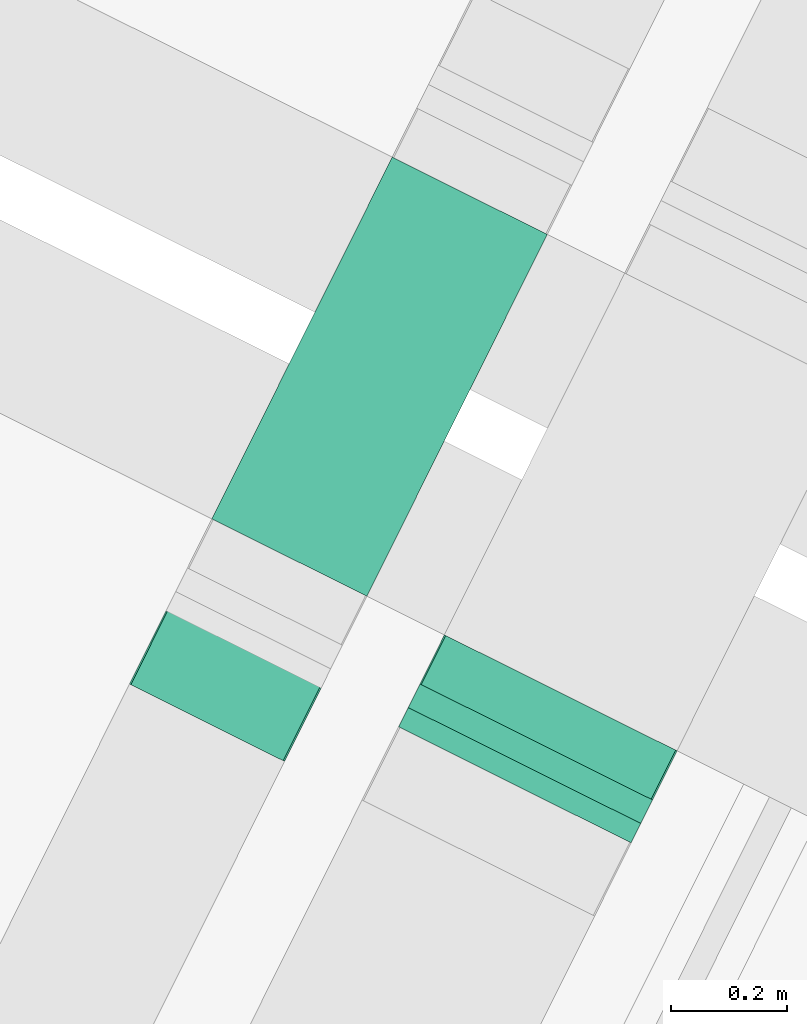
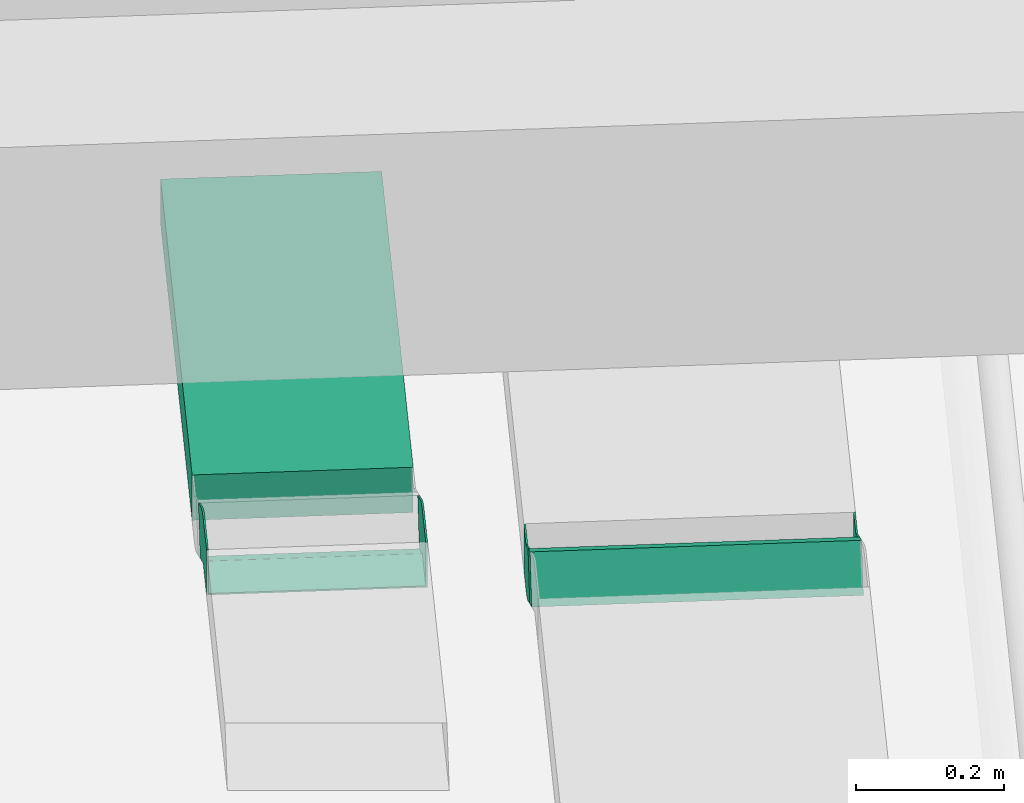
# One storey, part 30 of 47: 2 flow fittings, 2 flow segments.
"""IFC2X3 building model written with IfcOpenShell, lengths in metres."""

from ifc_helpers import new_model, entity, si_unit, converted_unit, derived_unit, direction, frame, frame_2d, origin, place, context, subcontext, project, spatial, rectangle, extrude, faceted_brep, source, transform, mapped, type_object, type_shapes, element, save


model = new_model("IFC2X3")

# Units and contexts
model_context = context("Model", 3, precision=1e-05, world=origin(), true_north=direction((0.894925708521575, 0.446215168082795)))
context_of_model = context(None, 3, precision=1e-05, world=origin(), true_north=direction((0.894925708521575, 0.446215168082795)))
body_context = subcontext(model_context, "Body", "Model", "MODEL_VIEW")
ifc_project = project(units=[si_unit("LENGTHUNIT", "METRE"), si_unit("AREAUNIT", "SQUARE_METRE"), si_unit("VOLUMEUNIT", "CUBIC_METRE"), converted_unit("PLANEANGLEUNIT", "DEGREE", entity("IfcRatioMeasure", 0.0174532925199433), si_unit("PLANEANGLEUNIT", "RADIAN"), dimensions=[0, 0, 0, 0, 0, 0, 0]), si_unit("MASSUNIT", "GRAM", prefix="KILO"), si_unit("TIMEUNIT", "SECOND"), si_unit("FREQUENCYUNIT", "HERTZ"), si_unit("THERMODYNAMICTEMPERATUREUNIT", "DEGREE_CELSIUS"), derived_unit("THERMALTRANSMITTANCEUNIT", [(si_unit("MASSUNIT", "GRAM", prefix="KILO"), 1), (si_unit("THERMODYNAMICTEMPERATUREUNIT", "KELVIN"), -1), (si_unit("TIMEUNIT", "SECOND"), -3)]), derived_unit("VOLUMETRICFLOWRATEUNIT", [(si_unit("LENGTHUNIT", "METRE"), 3), (si_unit("TIMEUNIT", "SECOND"), -1)]), si_unit("ELECTRICCURRENTUNIT", "AMPERE"), si_unit("ELECTRICVOLTAGEUNIT", "VOLT"), si_unit("POWERUNIT", "WATT"), si_unit("FORCEUNIT", "NEWTON", prefix="KILO"), si_unit("ILLUMINANCEUNIT", "LUX"), si_unit("LUMINOUSFLUXUNIT", "LUMEN"), si_unit("LUMINOUSINTENSITYUNIT", "CANDELA"), si_unit("PRESSUREUNIT", "PASCAL")], contexts=[model_context, context_of_model])

# Site, building, storey
site_placement = place(None, frame((218.228324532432, 584.720189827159, 0.0), z_axis=(0.0, 0.0, 1.0), x_axis=(0.446215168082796, 0.894925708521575, 0.0)))
site = spatial("IfcSite", under=ifc_project, at=site_placement, Name="Default", CompositionType="ELEMENT")
building_placement = place(site_placement, origin())
building = spatial("IfcBuilding", under=site, at=building_placement, CompositionType="ELEMENT")
storey_placement = place(building_placement, frame((0.0, 0.0, 4.69)))
storey = spatial("IfcBuildingStorey", under=building, at=storey_placement, Name="1 - Piano Primo", CompositionType="ELEMENT", Elevation=4.69)

# Flow segments
cable_carrier_segment_type = type_object("IfcCableCarrierSegmentType", Name="Passerella con raccordi:Passerella canale", PredefinedType="NOTDEFINED")
flow_segment_1_placement = place(storey_placement, frame((10.7941974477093, -3.35107899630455, 2.89275102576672)))
element("IfcFlowSegment", 1, at=flow_segment_1_placement, inside=storey, type_object=cable_carrier_segment_type, Name="Passerella con raccordi:Passerella canale", ObjectType="Passerella con raccordi:Passerella canale", context=body_context, shape_type="SweptSolid", body=[
    extrude(rectangle(XDim=0.699999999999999, YDim=0.3, at=frame_2d((1.08246744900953e-15, 0.0), x_axis=(1.0, 0.0))), frame((0.350000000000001, 0.150000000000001, 0.0)), (0.0, 0.0, 1.0), 0.0750000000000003),
])
flow_segment_2_placement = place(storey_placement, frame((10.616168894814, -3.95107899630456, 2.82822448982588)))
element("IfcFlowSegment", 2, at=flow_segment_2_placement, inside=storey, type_object=cable_carrier_segment_type, Name="Passerella con raccordi:Passerella canale", ObjectType="Passerella con raccordi:Passerella canale", context=body_context, shape_type="SweptSolid", body=[
    extrude(rectangle(XDim=0.0749999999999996, YDim=0.0527002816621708, at=frame_2d((2.70616862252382e-16, 4.68375338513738e-16), x_axis=(0.0, 1.0))), frame((0.0415698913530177, 0.0, 0.0456510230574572), z_axis=(0.0, 1.0, 0.0), x_axis=(-0.866025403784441, 0.0, 0.499999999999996)), (0.0, 0.0, 1.0), 0.450000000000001),
])

# Flow fittings
cable_carrier_fitting_type_1 = type_object("IfcCableCarrierFittingType", Name="Standard", PredefinedType="NOTDEFINED")
shared_shape_1 = source(origin(), body_context, "Body", "Brep", [
    faceted_brep([(-0.0858988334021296, -0.0374999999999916, -0.150000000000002), (-0.0858988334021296, -0.0374999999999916, 0.149999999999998), (-0.0858988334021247, 0.0375000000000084, 0.149999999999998), (-0.0858988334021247, 0.0375000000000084, 0.147460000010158), (-0.0858988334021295, -0.0349600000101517, 0.147460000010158), (-0.0858988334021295, -0.0349600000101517, -0.147460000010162), (-0.0858988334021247, 0.0375000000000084, -0.147460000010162), (-0.0858988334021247, 0.0375000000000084, -0.150000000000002), (0.0931405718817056, -0.0104734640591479, -0.150000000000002), (0.0931405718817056, -0.0104734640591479, -0.147460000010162), (0.0569105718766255, -0.0732256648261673, -0.147460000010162), (0.0569105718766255, -0.0732256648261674, 0.147460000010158), (0.0931405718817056, -0.0104734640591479, 0.147460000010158), (0.0931405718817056, -0.0104734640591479, 0.149999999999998), (0.0556405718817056, -0.0754253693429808, 0.149999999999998), (0.0556405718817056, -0.0754253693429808, -0.150000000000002), (-0.0108988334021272, -0.0374999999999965, 0.149999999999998), (-0.0100770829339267, -0.0376081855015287, 0.149999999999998), (-0.00931133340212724, -0.037925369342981, 0.149999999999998), (0.0281886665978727, 0.027026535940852, 0.149999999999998), (0.0187615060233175, 0.0309313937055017, 0.149999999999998), (0.0093343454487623, 0.0348362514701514, 0.149999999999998), (-0.000782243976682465, 0.0361681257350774, 0.149999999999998), (-0.0108988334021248, 0.0375000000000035, 0.149999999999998), (-0.0108988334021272, -0.0374999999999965, -0.150000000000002), (-0.0108988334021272, -0.0374999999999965, -0.142222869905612), (-0.0108988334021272, -0.0374999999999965, -0.134445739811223), (-0.0108988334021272, -0.0374999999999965, -0.126668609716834), (-0.0108988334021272, -0.0374999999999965, -0.118891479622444), (-0.0108988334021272, -0.0374999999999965, -0.111114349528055), (-0.0108988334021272, -0.0374999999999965, -0.103337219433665), (-0.0108988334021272, -0.0374999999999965, -0.0955600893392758), (-0.0108988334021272, -0.0374999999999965, -0.0877829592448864), (-0.0108988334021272, -0.0374999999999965, -0.0822965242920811), (-0.0108988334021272, -0.0374999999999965, -0.0768100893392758), (-0.0108988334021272, -0.0374999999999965, -0.0713236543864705), (-0.0108988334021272, -0.0374999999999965, -0.0658372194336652), (-0.0108988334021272, -0.0374999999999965, -0.06035078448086), (-0.0108988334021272, -0.0374999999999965, -0.0548643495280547), (-0.0108988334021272, -0.0374999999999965, -0.0493779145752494), (-0.0108988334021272, -0.0374999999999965, -0.0438914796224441), (-0.0108988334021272, -0.0374999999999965, -0.0384050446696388), (-0.0108988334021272, -0.0374999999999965, -0.0329186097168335), (-0.0108988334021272, -0.0374999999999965, -0.0274321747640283), (-0.0108988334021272, -0.0374999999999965, -0.021945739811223), (-0.0108988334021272, -0.0374999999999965, -0.0164593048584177), (-0.0108988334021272, -0.0374999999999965, -0.0109728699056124), (-0.0108988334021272, -0.0374999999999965, -0.00548643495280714), (-0.0108988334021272, -0.0374999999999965, 0.0), (-0.0108988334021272, -0.0374999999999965, 0.00468749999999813), (-0.0108988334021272, -0.0374999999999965, 0.00937499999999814), (-0.0108988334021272, -0.0374999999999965, 0.0187499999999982), (-0.0108988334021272, -0.0374999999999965, 0.0281249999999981), (-0.0108988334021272, -0.0374999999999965, 0.0328124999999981), (-0.0108988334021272, -0.0374999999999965, 0.0374999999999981), (-0.0108988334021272, -0.0374999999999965, 0.0468749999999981), (-0.0108988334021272, -0.0374999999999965, 0.0562499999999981), (-0.0108988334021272, -0.0374999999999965, 0.0656249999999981), (-0.0108988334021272, -0.0374999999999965, 0.0749999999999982), (-0.0108988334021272, -0.0374999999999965, 0.0843749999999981), (-0.0108988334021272, -0.0374999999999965, 0.0890624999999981), (-0.0108988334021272, -0.0374999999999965, 0.0937499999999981), (-0.0108988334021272, -0.0374999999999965, 0.103124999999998), (-0.0108988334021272, -0.0374999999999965, 0.112499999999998), (-0.0108988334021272, -0.0374999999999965, 0.121874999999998), (-0.0108988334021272, -0.0374999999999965, 0.131249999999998), (-0.0108988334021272, -0.0374999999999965, 0.136736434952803), (-0.0108988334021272, -0.0374999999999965, 0.142222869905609), (-0.0108988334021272, 0.0375000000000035, -0.150000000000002), (-0.00136101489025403, 0.0362443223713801, -0.150000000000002), (0.0093343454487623, 0.0348362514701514, -0.150000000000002), (0.0187615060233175, 0.0309313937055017, -0.150000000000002), (0.0281886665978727, 0.027026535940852, -0.150000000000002), (-0.00931133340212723, -0.0379253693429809, -0.150000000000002), (-0.0100770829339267, -0.0376081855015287, -0.150000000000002), (-0.0108988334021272, 0.0375000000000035, -0.147460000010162), (-0.0108988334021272, 0.0375000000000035, 0.147460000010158), (-0.0108988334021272, -0.0349600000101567, -0.147460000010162), (-0.00941968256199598, -0.0351547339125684, -0.147460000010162), (-0.00804133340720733, -0.0357256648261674, -0.147460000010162), (0.0281886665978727, 0.027026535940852, -0.147460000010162), (0.0187615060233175, 0.0309313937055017, -0.147460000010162), (0.0093343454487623, 0.0348362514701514, -0.147460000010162), (-0.000782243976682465, 0.0361681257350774, -0.147460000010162), (-0.0108988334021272, -0.0349600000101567, 0.147460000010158), (-0.0108988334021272, -0.0349600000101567, 0.137025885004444), (-0.0108988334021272, -0.0349600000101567, 0.12659176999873), (-0.0108988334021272, -0.0349600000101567, 0.110595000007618), (-0.0108988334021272, -0.0349600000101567, 0.0921625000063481), (-0.0108988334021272, -0.0349600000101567, 0.0737300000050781), (-0.0108988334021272, -0.0349600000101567, 0.0552975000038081), (-0.0108988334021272, -0.0349600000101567, 0.0368650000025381), (-0.0108988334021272, -0.0349600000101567, 0.0184325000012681), (-0.0108988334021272, -0.0349600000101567, 0.0), (-0.0108988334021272, -0.0349600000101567, -0.0159967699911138), (-0.0108988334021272, -0.0349600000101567, -0.0319935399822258), (-0.0108988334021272, -0.0349600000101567, -0.0479903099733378), (-0.0108988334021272, -0.0349600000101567, -0.0639870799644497), (-0.0108988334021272, -0.0349600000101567, -0.0744211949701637), (-0.0108988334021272, -0.0349600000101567, -0.0848553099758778), (-0.0108988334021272, -0.0349600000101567, -0.0952894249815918), (-0.0108988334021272, -0.0349600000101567, -0.105723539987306), (-0.0108988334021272, -0.0349600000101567, -0.11615765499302), (-0.0108988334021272, -0.0349600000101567, -0.126591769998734), (-0.0108988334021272, -0.0349600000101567, -0.137025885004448), (-0.000782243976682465, 0.0361681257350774, 0.147460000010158), (0.0093343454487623, 0.0348362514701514, 0.147460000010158), (0.0193008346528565, 0.0307079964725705, 0.147460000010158), (0.0281886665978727, 0.027026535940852, 0.147460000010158), (-0.00804133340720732, -0.0357256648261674, 0.147460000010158), (-0.00941968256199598, -0.0351547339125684, 0.147460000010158), (-0.0100160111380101, -0.0376252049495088, 0.0878571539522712), (-0.00931133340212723, -0.0379253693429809, -0.0731899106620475), (-0.00931133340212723, -0.0379253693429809, -0.0677034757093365), (-0.0101159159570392, -0.0375980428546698, -0.0740668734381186), (-0.00931133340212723, -0.0379253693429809, -0.0786763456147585), (-0.0101159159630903, -0.0375980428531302, -0.052121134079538), (-0.00931133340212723, -0.0379253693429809, -0.0567306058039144), (-0.00931133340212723, -0.0379253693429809, -0.0512441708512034), (-0.00931133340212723, -0.0379253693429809, -0.0457577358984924), (-0.0100062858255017, -0.0376280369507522, 0.0107980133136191), (-0.0100430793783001, -0.0376174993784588, 0.017385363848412), (-0.00931133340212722, -0.0379253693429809, -0.146111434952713), (-0.0100060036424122, -0.0376281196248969, -0.142569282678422), (-0.00931133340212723, -0.0379253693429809, 0.0200794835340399), (-0.0101719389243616, -0.0375843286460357, 0.0236284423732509), (-0.00931133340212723, -0.0379253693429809, 0.14222286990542), (-0.0100770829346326, -0.0376081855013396, 0.138334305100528), (-0.00931133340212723, -0.0379253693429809, 0.134445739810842), (-0.00999532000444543, -0.0376312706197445, 0.122780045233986), (-0.0100663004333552, -0.0376110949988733, 0.0542475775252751), (-0.00931133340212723, -0.0379253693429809, 0.0566744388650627), (-0.010097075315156, -0.0376028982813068, 0.0605630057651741), (-0.0101157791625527, -0.0375980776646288, -0.129790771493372), (-0.0100389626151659, -0.0376186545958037, -0.119824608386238), (-0.01011591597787, -0.0375980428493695, -0.0301753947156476), (-0.0099977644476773, -0.0376305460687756, 0.0761172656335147), (-0.00931133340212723, -0.0379253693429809, 0.0800058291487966), (-0.0100662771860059, -0.0376111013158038, 0.0824060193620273), (-0.00931133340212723, -0.0379253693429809, 0.0333430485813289), (-0.00931133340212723, -0.0379253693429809, 0.0411201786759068), (-0.0100563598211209, -0.0376138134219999, 0.0388108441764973), (-0.00931133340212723, -0.0379253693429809, -0.0292984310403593), (-0.00931133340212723, -0.0379253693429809, -0.0238119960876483), (-0.00931133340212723, -0.0379253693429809, -0.0347848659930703), (-0.00931133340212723, -0.0379253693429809, -0.00735269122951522), (-0.00931133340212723, -0.0379253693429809, -0.0018662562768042), (-0.0101159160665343, -0.0375980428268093, -0.00822965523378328), (-0.00931133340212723, -0.0379253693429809, -0.0128391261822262), (-0.010022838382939, -0.0376232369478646, 0.144167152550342), (-0.0100105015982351, -0.0376268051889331, 0.0450087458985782), (-0.00931133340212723, -0.0379253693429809, 0.0488973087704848), (-0.0100992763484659, -0.0376023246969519, 0.00234375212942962), (-0.0101111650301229, -0.0375992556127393, 0.06937590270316), (-0.00931133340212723, -0.0379253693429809, 0.0145930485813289), (-0.0100494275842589, -0.0376157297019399, -0.136209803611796), (-0.0100191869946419, -0.0376242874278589, -0.0434785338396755), (-0.00931133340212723, -0.0379253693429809, -0.0402713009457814), (-0.0101258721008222, -0.0375955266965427, -0.0371719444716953), (-0.0101258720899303, -0.0375955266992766, -0.0591176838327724), (-0.0100602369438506, -0.0376127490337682, -0.0934055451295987), (-0.0100098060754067, -0.0376270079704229, -0.11311245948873), (-0.0100492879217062, -0.0376157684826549, 0.0933153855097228), (-0.010067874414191, -0.0376106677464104, 0.0994486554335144), (-0.010108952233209, -0.0375998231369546, 0.109805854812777), (-0.00931133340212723, -0.0379253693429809, 0.10333721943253), (-0.00931133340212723, -0.0379253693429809, 0.111114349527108), (-0.0100522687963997, -0.0376149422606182, 0.132170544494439), (-0.00931133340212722, -0.0379253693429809, -0.13902713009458), (-0.010106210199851, -0.0376005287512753, 0.116092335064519), (-0.00931133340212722, -0.0379253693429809, -0.133540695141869), (-0.0101258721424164, -0.0375955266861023, -0.0152262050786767), (-0.00931133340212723, -0.0379253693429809, -0.0183255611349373), (-0.0100191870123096, -0.0376242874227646, -0.0215327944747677), (-0.0101258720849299, -0.0375955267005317, -0.0810634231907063), (-0.00931133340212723, -0.0379253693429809, -0.0622170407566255), (-0.0100191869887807, -0.037624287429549, -0.0654242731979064), (-0.00931133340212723, -0.0379253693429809, -0.0951356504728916), (-0.00931133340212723, -0.0379253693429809, -0.0896492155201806), (-0.00931133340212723, -0.0379253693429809, -0.0841627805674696), (-0.0100191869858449, -0.0376242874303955, -0.0873700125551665), (-0.00931133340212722, -0.0379253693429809, -0.122567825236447), (-0.00931133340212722, -0.0379253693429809, -0.117081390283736), (-0.0101042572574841, -0.0376010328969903, -0.105576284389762), (-0.00931133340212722, -0.0379253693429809, -0.111594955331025), (-0.00931133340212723, -0.0379253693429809, -0.106108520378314), (-0.00931133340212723, -0.0379253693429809, -0.100622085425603), (-0.00931133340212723, -0.0379253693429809, 0.126668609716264), (-0.00931133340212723, -0.0379253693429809, 0.118891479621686), (-0.00931133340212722, -0.0379253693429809, -0.128054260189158), (-0.00931133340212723, -0.0379253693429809, 0.0955600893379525), (-0.00931133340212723, -0.0379253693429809, 0.0877829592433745), (-0.00931133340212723, -0.0379253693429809, 0.0722286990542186), (-0.00931133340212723, -0.0379253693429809, 0.0644515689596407), (-0.0100612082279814, -0.0376124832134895, 0.0304687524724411), (-0.00931133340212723, -0.0379253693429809, 0.0255659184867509), (-0.00931133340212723, -0.0379253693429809, 0.00910661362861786), (-0.00931133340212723, -0.0379253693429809, 0.00362017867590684), (-0.0100571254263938, -0.0376136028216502, -0.0994486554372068), (-0.00943516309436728, -0.0351506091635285, -0.0450563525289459), (-0.00804133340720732, -0.0357256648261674, -0.0535529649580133), (-0.00941968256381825, -0.0351547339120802, -0.0559886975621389), (-0.00941968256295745, -0.0351547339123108, -0.0796382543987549), (-0.00941968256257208, -0.0351547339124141, -0.093108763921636), (-0.00941968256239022, -0.0351547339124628, -0.107538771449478), (-0.00941968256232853, -0.0351547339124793, -0.118338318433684), (-0.00941968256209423, -0.0351547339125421, -0.131808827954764), (-0.00941968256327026, -0.035154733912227, -0.0670727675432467), (-0.00804133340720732, -0.0357256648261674, 0.115466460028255), (-0.00951383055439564, -0.0351303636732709, 0.119704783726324), (-0.00804133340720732, -0.0357256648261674, 0.131463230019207), (-0.00938820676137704, -0.0351632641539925, 0.0142687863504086), (-0.009539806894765, -0.035123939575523, 0.0276487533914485), (-0.00944772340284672, -0.0351472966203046, 0.0964175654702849), (-0.00938732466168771, -0.0351635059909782, 0.00298298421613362), (-0.00804133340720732, -0.0357256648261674, -0.0639870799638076), (-0.00804133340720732, -0.0357256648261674, -0.0744211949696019), (-0.00804133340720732, -0.0357256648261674, -0.0848553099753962), (-0.00804133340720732, -0.0357256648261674, -0.0952894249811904), (-0.00804133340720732, -0.0357256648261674, -0.105723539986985), (-0.00804133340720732, -0.0357256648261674, -0.116157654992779), (-0.00804133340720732, -0.0357256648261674, -0.126591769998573), (-0.00804133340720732, -0.0357256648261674, -0.137025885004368), (-0.00931691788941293, -0.0351833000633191, 0.0731869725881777), (-0.00960988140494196, -0.0351072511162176, 0.0843997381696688), (-0.00939822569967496, -0.0351605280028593, -0.0274676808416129), (-0.00804133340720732, -0.0357256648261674, -0.0222506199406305), (-0.00804133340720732, -0.0357256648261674, -0.0326847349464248), (-0.00938352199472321, -0.0351645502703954, 0.0609207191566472), (-0.00804133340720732, -0.0357256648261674, 0.0354826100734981), (-0.00804133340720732, -0.0357256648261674, 0.0194858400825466), (-0.0092916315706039, -0.0351906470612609, -0.0159019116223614), (-0.00950624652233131, -0.0351322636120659, 0.131808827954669), (-0.00925164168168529, -0.0352025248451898, 0.107597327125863), (-0.00804133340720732, -0.0357256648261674, 0.0994696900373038), (-0.00804133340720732, -0.0357256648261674, 0.0834729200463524), (-0.00804133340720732, -0.0357256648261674, 0.0674761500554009), (-0.00804133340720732, -0.0357256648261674, -0.043118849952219), (-0.00939896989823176, -0.0351603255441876, 0.0385250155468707), (-0.00953825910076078, -0.0351243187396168, 0.0497283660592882), (-0.00804133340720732, -0.0357256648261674, 0.00905172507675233), (-0.00804133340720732, -0.0357256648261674, -0.0118165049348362), (-0.00804133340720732, -0.0357256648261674, -0.00138238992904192), (-0.00804133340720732, -0.0357256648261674, 0.0514793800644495)], [[[0, 1, 2, 3, 4, 5, 6, 7]], [[8, 9, 10, 11, 12, 13, 14, 15]], [[1, 16, 17, 18, 14, 13, 19, 20, 21, 22, 23, 2]], [[16, 1, 0, 24, 25, 26, 27, 28, 29, 30, 31, 32, 33, 34, 35, 36, 37, 38, 39, 40, 41, 42, 43, 44, 45, 46, 47, 48, 49, 50, 51, 52, 53, 54, 55, 56, 57, 58, 59, 60, 61, 62, 63, 64, 65, 66, 67]], [[7, 68, 69, 70, 71, 72, 8, 15, 73, 74, 24, 0]], [[75, 68, 7, 6]], [[23, 76, 3, 2]], [[5, 77, 78, 79, 10, 9, 80, 81, 82, 83, 75, 6]], [[77, 5, 4, 84, 85, 86, 87, 88, 89, 90, 91, 92, 93, 94, 95, 96, 97, 98, 99, 100, 101, 102, 103, 104]], [[3, 76, 105, 106, 107, 108, 12, 11, 109, 110, 84, 4]], [[59, 111, 60]], [[112, 113, 114, 115]], [[116, 117, 118, 119]], [[114, 35, 34]], [[116, 39, 38]], [[50, 120, 121]], [[122, 123, 74]], [[121, 124, 125]], [[74, 73, 122]], [[126, 127, 128]], [[129, 65, 64]], [[130, 131, 132]], [[27, 133, 134]], [[135, 43, 42]], [[136, 137, 138]], [[139, 140, 141]], [[142, 143, 135, 144]], [[145, 146, 147, 148]], [[127, 126, 149]], [[130, 150, 151]], [[147, 146, 152]], [[57, 153, 58]], [[141, 140, 150]], [[120, 154, 121]], [[155, 25, 123]], [[156, 157, 158]], [[159, 117, 116]], [[31, 160, 32]], [[29, 28, 161]], [[132, 153, 57]], [[61, 162, 163]], [[164, 165, 166]], [[167, 66, 65]], [[122, 168, 123]], [[164, 166, 169]], [[149, 67, 127]], [[170, 133, 155]], [[167, 128, 127]], [[25, 155, 26]], [[16, 67, 149]], [[25, 24, 74]], [[127, 67, 66]], [[18, 17, 149]], [[171, 148, 147]], [[158, 144, 135]], [[172, 171, 173]], [[174, 115, 114]], [[175, 159, 176]], [[160, 177, 178]], [[179, 174, 180]], [[66, 167, 127]], [[123, 168, 155]], [[74, 123, 25]], [[155, 168, 170]], [[133, 181, 134]], [[134, 182, 161]], [[155, 133, 26]], [[29, 161, 183]], [[161, 28, 134]], [[182, 134, 181]], [[27, 134, 28]], [[183, 184, 185, 186]], [[167, 129, 187]], [[48, 47, 152, 49]], [[167, 65, 129]], [[187, 129, 188]], [[188, 129, 169]], [[187, 128, 167]], [[133, 170, 189, 181]], [[169, 64, 63]], [[64, 169, 129]], [[63, 62, 164]], [[169, 63, 164]], [[166, 188, 169]], [[162, 190, 163]], [[165, 163, 190]], [[164, 62, 163]], [[164, 163, 165]], [[61, 163, 62]], [[138, 58, 136]], [[191, 190, 162]], [[138, 111, 59]], [[136, 192, 137]], [[58, 138, 59]], [[137, 191, 138]], [[136, 153, 192]], [[58, 153, 136]], [[193, 132, 131]], [[130, 132, 56]], [[193, 192, 153]], [[162, 61, 60]], [[153, 132, 193]], [[57, 56, 132]], [[111, 138, 191]], [[141, 150, 54]], [[150, 130, 55]], [[130, 56, 55]], [[151, 150, 140]], [[151, 131, 130]], [[54, 150, 55]], [[125, 194, 52]], [[141, 54, 53]], [[52, 194, 53]], [[195, 194, 125]], [[194, 139, 141]], [[53, 194, 141]], [[195, 139, 194]], [[52, 51, 125]], [[121, 125, 51]], [[50, 121, 51]], [[124, 195, 125]], [[120, 50, 49]], [[152, 196, 120]], [[49, 152, 120]], [[18, 149, 126]], [[147, 46, 171]], [[46, 147, 47]], [[173, 45, 44, 43]], [[45, 173, 171]], [[152, 47, 147]], [[146, 197, 196, 152]], [[135, 143, 173]], [[135, 42, 158]], [[43, 135, 173]], [[156, 41, 40, 39]], [[176, 37, 36, 35]], [[41, 156, 158]], [[116, 119, 156]], [[116, 38, 159]], [[39, 116, 156]], [[37, 176, 159]], [[114, 113, 176]], [[114, 34, 174]], [[35, 114, 176]], [[29, 183, 30]], [[180, 33, 32]], [[33, 180, 174]], [[30, 198, 31]], [[160, 178, 180]], [[198, 177, 160]], [[183, 198, 30]], [[183, 186, 198]], [[121, 154, 124]], [[143, 172, 173]], [[119, 157, 156]], [[113, 175, 176]], [[178, 179, 180]], [[183, 161, 184]], [[32, 160, 180]], [[31, 198, 160]], [[196, 154, 120]], [[149, 17, 16]], [[161, 182, 184]], [[171, 172, 148]], [[158, 157, 144]], [[159, 175, 117]], [[174, 179, 115]], [[26, 133, 27]], [[191, 162, 111]], [[60, 111, 162]], [[171, 46, 45]], [[158, 42, 41]], [[159, 38, 37]], [[174, 34, 33]], [[186, 177, 198]], [[82, 70, 69, 68, 75, 83]], [[23, 22, 21, 106, 105, 76]], [[71, 70, 82, 81, 80, 72]], [[21, 20, 19, 108, 107, 106]], [[199, 200, 201]], [[202, 203, 204, 205, 206, 78, 77, 104, 103, 102, 101, 100, 99, 98, 97, 96, 201, 207]], [[85, 84, 110]], [[208, 209, 210]], [[211, 92, 212]], [[88, 87, 213]], [[211, 214, 93]], [[202, 207, 201, 200, 215, 216, 217, 218, 219, 220, 221, 222, 79, 78, 206, 205, 204, 203]], [[210, 110, 109]], [[223, 89, 224]], [[225, 226, 227]], [[223, 228, 89]], [[229, 230, 212]], [[94, 93, 231]], [[231, 225, 94]], [[209, 232, 210]], [[233, 87, 209]], [[232, 85, 110]], [[85, 232, 86]], [[209, 86, 232]], [[210, 232, 110]], [[209, 87, 86]], [[213, 234, 235]], [[234, 213, 233]], [[233, 209, 208]], [[224, 213, 235]], [[233, 208, 234]], [[233, 213, 87]], [[224, 88, 213]], [[224, 89, 88]], [[236, 228, 223]], [[201, 96, 199]], [[235, 223, 224]], [[92, 91, 212]], [[199, 227, 237, 200]], [[238, 212, 91]], [[239, 238, 91]], [[214, 211, 240]], [[240, 211, 230]], [[92, 211, 93]], [[211, 212, 230]], [[229, 212, 238]], [[199, 96, 95]], [[95, 94, 225]], [[227, 199, 225]], [[231, 226, 225]], [[95, 225, 199]], [[241, 226, 231, 242]], [[214, 242, 231]], [[238, 243, 229]], [[239, 228, 243]], [[90, 89, 228]], [[236, 223, 235]], [[90, 228, 239]], [[228, 236, 243]], [[90, 239, 91]], [[238, 239, 243]], [[93, 214, 231]], [[242, 214, 240]], [[14, 18, 126, 128, 187, 188, 166, 165, 190, 191, 137, 192, 193, 131, 151, 140, 139, 195, 124, 154, 196, 197, 146, 145, 148, 172, 143, 142, 144, 157, 119, 118, 117, 175, 113, 112, 115, 179, 178, 177, 186, 185, 184, 182, 181, 189, 170, 168, 122, 73, 15]], [[8, 72, 80, 9]], [[12, 108, 19, 13]], [[10, 79, 222, 221, 220, 219, 218, 217, 216, 215, 200, 237, 227, 226, 241, 242, 240, 230, 229, 243, 236, 235, 234, 208, 210, 109, 11]]]),
])
type_shapes(cable_carrier_fitting_type_1, [shared_shape_1])
flow_fitting_1_placement = place(storey_placement, frame((10.5605283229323, -3.20107899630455, 3.03000000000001), z_axis=(0.0, -1.0, 0.0), x_axis=(1.0, 0.0, 0.0)))
element("IfcFlowFitting", 3, at=flow_fitting_1_placement, inside=storey, type_object=cable_carrier_fitting_type_1, Name="M_Curvatura esterna verticale canale:Standard", ObjectType="Standard", context=body_context, shape_type="MappedRepresentation", body=[
    mapped(shared_shape_1, transform((0.0, 0.0, 0.0), scale=1.0)),
])
cable_carrier_fitting_type_2 = type_object("IfcCableCarrierFittingType", Name="Standard", PredefinedType="NOTDEFINED")
shared_shape_2 = source(origin(), body_context, "Body", "Brep", [
    faceted_brep([(-0.0608988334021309, -0.0374999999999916, -0.225000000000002), (-0.0608988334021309, -0.0374999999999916, -0.222460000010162), (-0.0608988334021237, 0.0349600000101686, -0.222460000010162), (-0.0608988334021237, 0.0349600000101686, 0.222460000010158), (-0.0608988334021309, -0.0374999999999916, 0.222460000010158), (-0.0608988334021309, -0.0374999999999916, 0.224999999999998), (-0.0608988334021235, 0.0375000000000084, 0.224999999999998), (-0.0608988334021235, 0.0375000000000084, -0.225000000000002), (0.0702199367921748, -0.000173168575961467, -0.222460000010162), (0.0339899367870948, -0.0629253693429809, -0.222460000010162), (0.0339899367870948, -0.0629253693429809, -0.225000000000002), (0.0714899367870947, 0.00202653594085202, -0.225000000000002), (0.0714899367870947, 0.00202653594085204, 0.224999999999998), (0.0339899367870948, -0.0629253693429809, 0.224999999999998), (0.0339899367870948, -0.0629253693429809, 0.222460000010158), (0.0702199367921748, -0.00017316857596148, 0.222460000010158), (-0.0108988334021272, -0.0374999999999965, 0.224999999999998), (-0.0100770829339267, -0.0376081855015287, 0.224999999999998), (-0.00931133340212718, -0.0379253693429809, 0.224999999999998), (0.0281886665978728, 0.027026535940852, 0.224999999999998), (0.00933434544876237, 0.0348362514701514, 0.224999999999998), (-0.0108988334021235, 0.0375000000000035, 0.224999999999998), (-0.0108988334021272, 0.0375000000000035, 0.0706376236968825), (-0.0108988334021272, 0.0375000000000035, -0.0837247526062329), (-0.0108988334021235, 0.0375000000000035, -0.225000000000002), (0.00933434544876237, 0.0348362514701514, -0.225000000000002), (0.0281886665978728, 0.027026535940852, -0.225000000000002), (-0.00931133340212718, -0.0379253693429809, -0.225000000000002), (-0.0100770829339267, -0.0376081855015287, -0.225000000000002), (-0.0108988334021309, -0.0374999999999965, -0.225000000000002), (-0.0108988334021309, -0.0374999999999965, -0.222460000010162), (-0.0108988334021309, -0.0374999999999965, 0.222460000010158), (-0.0100770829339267, -0.0376081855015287, -0.222460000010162), (-0.00931133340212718, -0.0379253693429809, -0.222460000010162), (0.0269186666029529, 0.0248268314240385, -0.222460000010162), (0.00867694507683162, 0.0323827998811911, -0.222460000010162), (-0.0108988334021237, 0.0349600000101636, -0.222460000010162), (-0.0108988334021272, 0.0349600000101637, -0.0812079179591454), (-0.0108988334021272, 0.0349600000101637, 0.0706260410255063), (-0.0108988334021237, 0.0349600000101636, 0.222460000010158), (0.00867694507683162, 0.0323827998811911, 0.222460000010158), (0.0269186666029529, 0.0248268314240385, 0.222460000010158), (-0.00931133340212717, -0.0379253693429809, 0.222460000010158), (-0.0100770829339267, -0.0376081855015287, 0.222460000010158), (0.0281886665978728, 0.027026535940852, -0.0837247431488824), (0.0281886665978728, 0.027026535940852, 0.0706376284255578), (0.00933434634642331, 0.0348362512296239, -0.00654356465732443), (0.0269186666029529, 0.0248268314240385, -0.0812079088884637), (0.0269186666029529, 0.0248268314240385, 0.0706260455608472), (0.00867694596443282, 0.0323827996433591, -0.00529093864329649)], [[[0, 1, 2, 3, 4, 5, 6, 7]], [[8, 9, 10, 11, 12, 13, 14, 15]], [[5, 16, 17, 18, 13, 12, 19, 20, 21, 6]], [[21, 22, 23, 24, 7, 6]], [[7, 24, 25, 26, 11, 10, 27, 28, 29, 0]], [[30, 1, 0, 29]], [[16, 5, 4, 31]], [[1, 30, 32, 33, 9, 8, 34, 35, 36, 2]], [[36, 37, 38, 39, 3, 2]], [[3, 39, 40, 41, 15, 14, 42, 43, 31, 4]], [[26, 25, 44]], [[45, 20, 19]], [[45, 44, 46]], [[22, 21, 20]], [[24, 23, 25]], [[23, 46, 25]], [[20, 46, 22]], [[44, 25, 46]], [[46, 20, 45]], [[22, 46, 23]], [[29, 28, 32, 30]], [[16, 31, 43, 17]], [[32, 28, 27, 33]], [[43, 42, 18, 17]], [[47, 35, 34]], [[41, 40, 48]], [[49, 47, 48]], [[40, 39, 38]], [[35, 37, 36]], [[35, 49, 37]], [[38, 49, 40]], [[49, 35, 47]], [[48, 40, 49]], [[37, 49, 38]], [[11, 26, 44, 45, 19, 12]], [[10, 9, 33, 27]], [[13, 18, 42, 14]], [[15, 41, 48, 47, 34, 8]]]),
])
type_shapes(cable_carrier_fitting_type_2, [shared_shape_2])
flow_fitting_2_placement = place(storey_placement, frame((10.7332986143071, -3.72607899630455, 2.83025102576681), z_axis=(0.0, -1.0, 0.0), x_axis=(-1.0, 0.0, 0.0)))
element("IfcFlowFitting", 4, at=flow_fitting_2_placement, inside=storey, type_object=cable_carrier_fitting_type_2, Name="M_Curvatura interna verticale canale:Standard", ObjectType="Standard", context=body_context, shape_type="MappedRepresentation", body=[
    mapped(shared_shape_2, transform((0.0, 0.0, 0.0), scale=1.0)),
])

save(model, "model.ifc")
